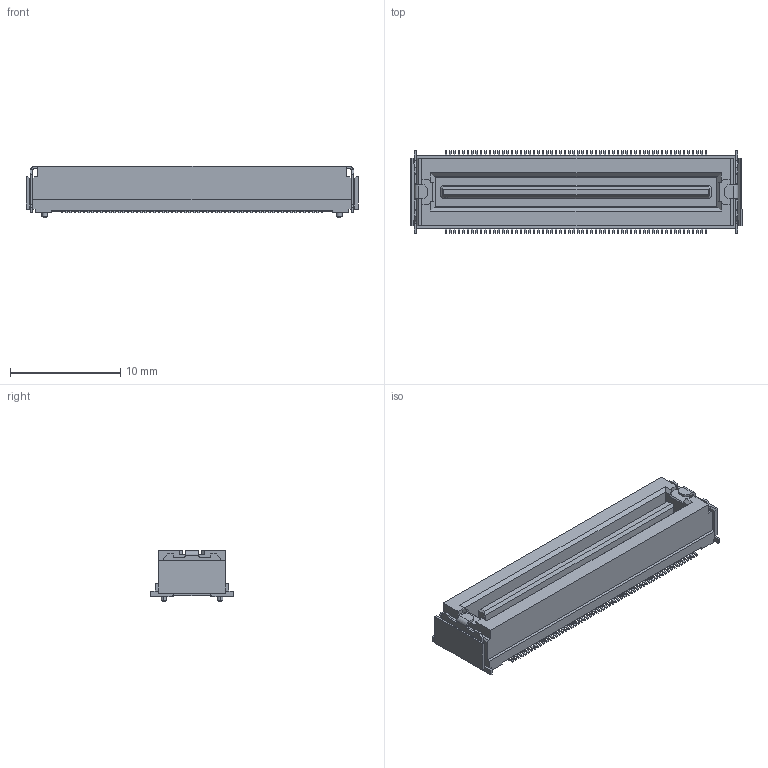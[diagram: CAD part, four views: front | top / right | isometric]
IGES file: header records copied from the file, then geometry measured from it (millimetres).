
Start section: Elysium IGES Interface
Global section: file name: C:\Users\1354\Desktop\P3D161_DU01-120SB\P3D161_DU01-120SB.igs; native system: Creo Elements/Direct Modeling 19.0F  14-Feb-2017; preprocessor: Creo Element/Direct IGES_3D V2.2; author: Unknown; organization: Unknown; date: 20171127.155500; units: millimetre
Bounding box: 30.1 x 7.5 x 4.7 mm (x, y, z)
Volume: 598 mm3; surface area: 1072.9 mm2
Topology: 1 solids, 1 shells, 1224 faces, 3453 edges, 2294 vertices
Faces by surface type: bspline 1224
